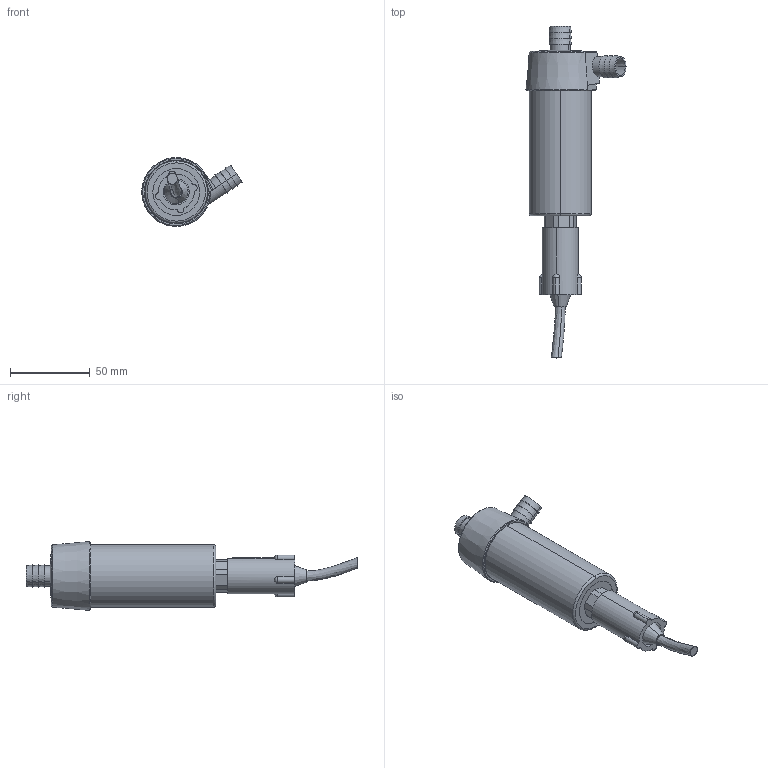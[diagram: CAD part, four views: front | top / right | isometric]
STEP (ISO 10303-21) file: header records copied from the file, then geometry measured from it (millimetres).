
FILE_DESCRIPTION (( 'STEP AP203' ), '1' );
FILE_NAME ('5M, Ti, MCBH.STEP', '2024-11-15T20:54:42', ( 'user' ), ( '' ), 'SwSTEP 2.0', 'SolidWorks 2021', '' );
FILE_SCHEMA (( 'CONFIG_CONTROL_DESIGN' ));
Length unit declared in the file: inch
Products named in the file (1): 5M, Ti, MCBH
Bounding box: 62.61 x 207.52 x 43.01 mm (x, y, z)
Volume: 79750.6 mm3; surface area: 39658.7 mm2
Topology: 4 solids, 4 shells, 181 faces, 413 edges, 260 vertices
Faces by surface type: cylinder 56, plane 52, cone 42, torus 16, bspline 11, sphere 4
Entity records: 7089 total; most frequent: CARTESIAN_POINT 2958, DIRECTION 880, ORIENTED_EDGE 814, EDGE_CURVE 407, AXIS2_PLACEMENT_3D 363, VERTEX_POINT 258, EDGE_LOOP 211, CIRCLE 192
